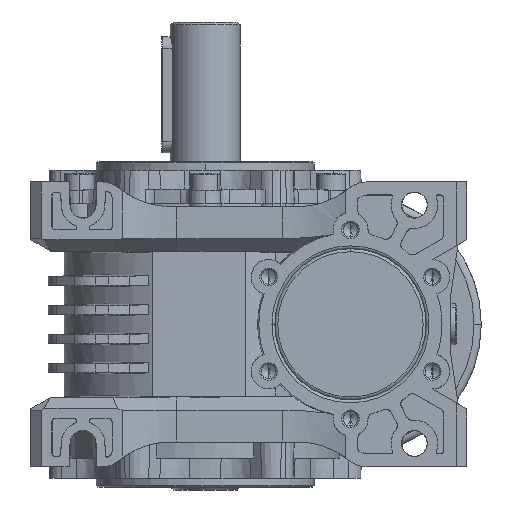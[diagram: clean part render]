
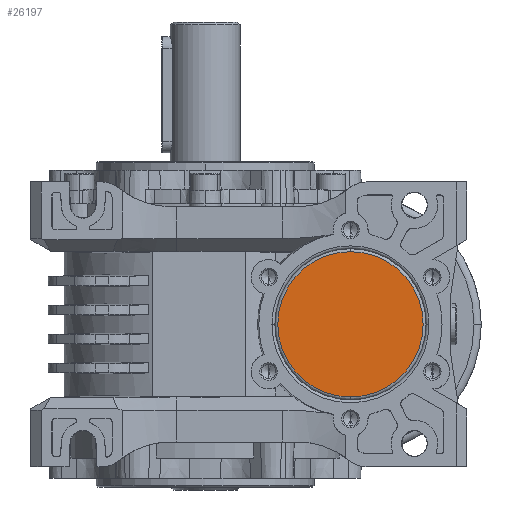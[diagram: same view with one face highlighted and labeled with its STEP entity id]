
A CAD part, left-side view. The second image highlights one B-rep face of the part: STEP entity #26197.
In plain terms, the highlighted planar face has unit normal (-1, 0, 0).
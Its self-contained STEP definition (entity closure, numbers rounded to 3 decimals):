
#1253 = CARTESIAN_POINT ( 'NONE',  ( -60., -50., 0. ) ) ;
#3767 = AXIS2_PLACEMENT_3D ( 'NONE', #16195, #24257, #74208 ) ;
#11714 = AXIS2_PLACEMENT_3D ( 'NONE', #1253, #98964, #100572 ) ;
#13471 = VERTEX_POINT ( 'NONE', #42026 ) ;
#16195 = CARTESIAN_POINT ( 'NONE',  ( -60., -50., 0. ) ) ;
#24257 = DIRECTION ( 'NONE',  ( -1., 0., 0. ) ) ;
#26197 = ADVANCED_FACE ( 'NONE', ( #58456 ), #41274, .F. ) ;
#28843 = EDGE_LOOP ( 'NONE', ( #93291, #90551 ) ) ;
#32136 = DIRECTION ( 'NONE',  ( 0., 0., -1. ) ) ;
#33735 = DIRECTION ( 'NONE',  ( 1., 0., 0. ) ) ;
#38940 = EDGE_CURVE ( 'NONE', #13471, #99505, #55176, .T. ) ;
#41274 = PLANE ( 'NONE',  #79206 ) ;
#42026 = CARTESIAN_POINT ( 'NONE',  ( -60., -50., -25. ) ) ;
#48278 = CARTESIAN_POINT ( 'NONE',  ( -60., -50., 0. ) ) ;
#55176 = CIRCLE ( 'NONE', #3767, 25. ) ;
#58456 = FACE_OUTER_BOUND ( 'NONE', #28843, .T. ) ;
#71860 = CARTESIAN_POINT ( 'NONE',  ( -60., -50., 25. ) ) ;
#74208 = DIRECTION ( 'NONE',  ( 0., 0., 1. ) ) ;
#78296 = EDGE_CURVE ( 'NONE', #99505, #13471, #83723, .T. ) ;
#79206 = AXIS2_PLACEMENT_3D ( 'NONE', #48278, #33735, #32136 ) ;
#83723 = CIRCLE ( 'NONE', #11714, 25. ) ;
#90551 = ORIENTED_EDGE ( 'NONE', *, *, #38940, .T. ) ;
#93291 = ORIENTED_EDGE ( 'NONE', *, *, #78296, .T. ) ;
#98964 = DIRECTION ( 'NONE',  ( -1., 0., 0. ) ) ;
#99505 = VERTEX_POINT ( 'NONE', #71860 ) ;
#100572 = DIRECTION ( 'NONE',  ( 0., 0., 1. ) ) ;
